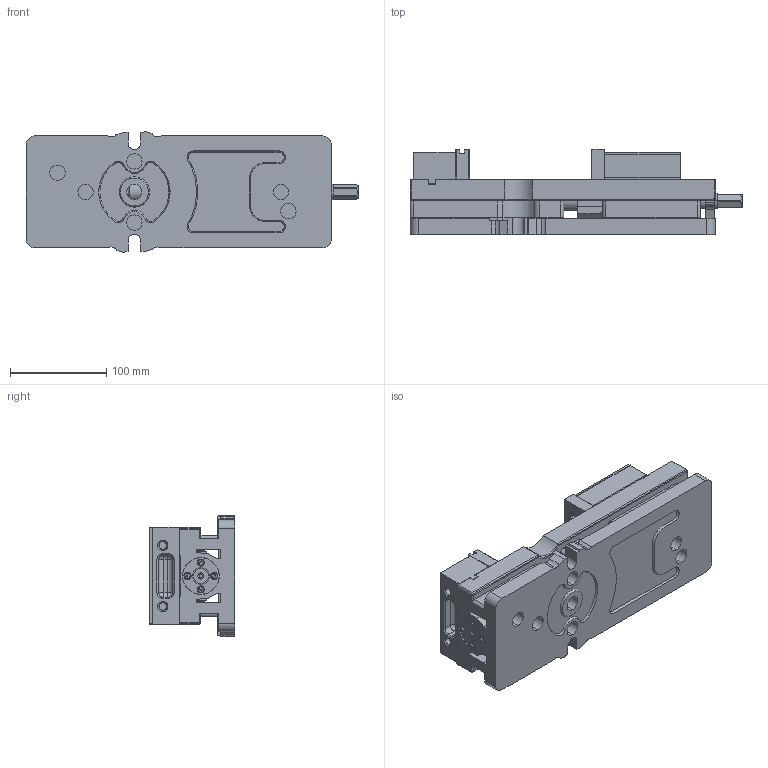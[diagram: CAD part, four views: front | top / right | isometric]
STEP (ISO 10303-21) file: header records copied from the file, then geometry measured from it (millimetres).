
FILE_DESCRIPTION (( 'STEP AP214' ), '1' );
FILE_NAME ('Kurt-DX4 WEB.STEP', '2018-12-19T21:15:12', ( '' ), ( '' ), 'SwSTEP 2.0', 'SolidWorks 2018', '' );
FILE_SCHEMA (( 'AUTOMOTIVE_DESIGN' ));
Length unit declared in the file: inch
Products named in the file (1): Kurt-DX4 WEB
Bounding box: 345.03 x 88.52 x 126.04 mm (x, y, z)
Volume: 1760572.1 mm3; surface area: 317979.1 mm2
Topology: 20 solids, 20 shells, 1163 faces, 2774 edges, 1675 vertices
Faces by surface type: plane 588, cylinder 326, cone 202, torus 25, sphere 14, bspline 8
Entity records: 48950 total; most frequent: CARTESIAN_POINT 6482, DIRECTION 5827, ORIENTED_EDGE 5472, EDGE_CURVE 2736, AXIS2_PLACEMENT_3D 2049, LINE 1729, VECTOR 1729, VERTEX_POINT 1675
